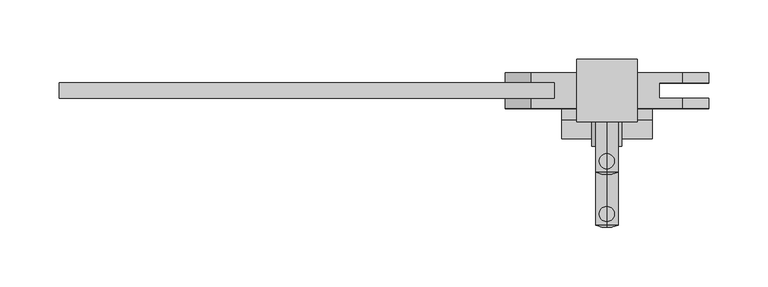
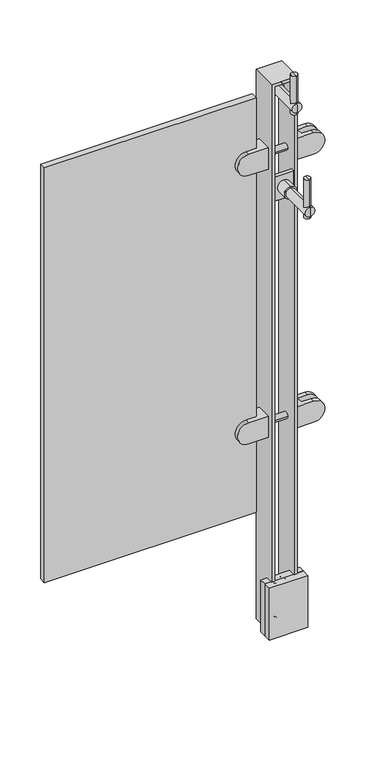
"""IFC4 building model written with IfcOpenShell, lengths in millimetres: proxy geometry, LIVERS_ICN - Glass Panel : LIVERS_ICN - Glass Panel."""

from ifc_helpers import new_model, si_unit, point, frame, origin, place, context, project, spatial, polyline, circle_curve, ellipse_curve, trimmed, outline, extrude, faceted_brep, source, transform, mapped, element, save
from ifc_brep_helpers import plane_surface, cylinder_surface, revolved_surface, advanced_brep


def building_element_proxy_dcb49e08(model_context):
    return source(origin(), model_context, "Body", "SolidModel", [
        advanced_brep(
        [(795.5594285, 60.3249609, 991.2180522), (795.5594285, 60.3249609, 978.5180522), (795.5594285, 60.3249609, 965.8180522), (795.5594285, 38.0999609, 991.2180522), (795.5594285, 38.0999609, 965.8180522), (795.5594285, 38.0999609, 978.5180522)],
        [
            (0, 1),
            (1, 2),
            (2, 0, circle_curve(frame((795.5594285, 60.3249609, 978.5180522), z_axis=(0.0, 1.0, 0.0), x_axis=(0.0, 0.0, -1.0)), 12.7)),
            (0, 2, circle_curve(frame((795.5594285, 60.3249609, 978.5180522), z_axis=(0.0, 1.0, 0.0), x_axis=(0.0, 0.0, -1.0)), 12.7)),
            (3, 0),
            (2, 4),
            (4, 3, circle_curve(frame((795.5594285, 38.0999609, 978.5180522), z_axis=(0.0, 1.0, 0.0), x_axis=(0.0, 0.0, -1.0)), 12.7)),
            (3, 4, circle_curve(frame((795.5594285, 38.0999609, 978.5180522), z_axis=(0.0, 1.0, 0.0), x_axis=(0.0, 0.0, -1.0)), 12.7)),
            (5, 3),
            (4, 5),
        ],
        [
            plane_surface(frame((795.5594285, 60.3249609, 978.5180522), z_axis=(0.0, 1.0, 0.0), x_axis=(0.0, 0.0, -1.0))),
            cylinder_surface(frame((795.5594285, 69.3828283, 978.5180522), z_axis=(0.0, -1.0, 0.0), x_axis=(0.0, 0.0, -1.0)), 12.7),
            plane_surface(frame((795.5594285, 38.0999609, 978.5180522), z_axis=(0.0, -1.0, 0.0), x_axis=(0.0, 0.0, -1.0))),
        ],
        [
            (0, [[1, 2, 3]]),
            (0, [[-2, -1, 4]]),
            (1, [[5, -3, 6, 7]]),
            (1, [[-6, -4, -5, 8]]),
            (2, [[9, -7, 10]]),
            (2, [[-10, -8, -9]]),
        ],
    ),
        advanced_brep(
        [(795.5594285, -25.4004131, 1043.1838845), (795.5594285, -19.0504161, 1043.1838845), (795.5594285, -12.7004191, 1043.1838845), (795.5594285, -25.4004131, 962.7878163), (795.5594285, -12.7004191, 962.7878163), (795.5594285, -19.0504161, 962.7878163)],
        [
            (0, 1),
            (1, 2),
            (2, 0, circle_curve(frame((795.5594285, -19.0504161, 1043.1838845), z_axis=(0.0, 0.0, 1.0), x_axis=(0.0, 1.0, 0.0)), 6.349997)),
            (0, 2, circle_curve(frame((795.5594285, -19.0504161, 1043.1838845), z_axis=(0.0, 0.0, 1.0), x_axis=(0.0, 1.0, 0.0)), 6.349997)),
            (3, 0),
            (2, 4),
            (4, 3, circle_curve(frame((795.5594285, -19.0504161, 962.7878163), z_axis=(0.0, 0.0, 1.0), x_axis=(0.0, 1.0, 0.0)), 6.349997)),
            (3, 4, circle_curve(frame((795.5594285, -19.0504161, 962.7878163), z_axis=(0.0, 0.0, 1.0), x_axis=(0.0, 1.0, 0.0)), 6.349997)),
            (5, 3),
            (4, 5),
        ],
        [
            plane_surface(frame((795.5594285, -19.0504161, 1043.1838845), z_axis=(0.0, 0.0, 1.0), x_axis=(0.0, 1.0, 0.0))),
            cylinder_surface(frame((795.5594285, -19.0504161, 1057.0348914), z_axis=(0.0, 0.0, -1.0), x_axis=(0.0, 1.0, 0.0)), 6.349997),
            plane_surface(frame((795.5594285, -19.0504161, 962.7878163), z_axis=(0.0, 0.0, -1.0), x_axis=(0.0, 1.0, 0.0))),
        ],
        [
            (0, [[1, 2, 3]]),
            (0, [[-2, -1, 4]]),
            (1, [[5, -3, 6, 7]]),
            (1, [[-6, -4, -5, 8]]),
            (2, [[9, -7, 10]]),
            (2, [[-10, -8, -9]]),
        ],
    ),
        advanced_brep(
        [(795.5594285, -30.1375464, 978.5180522), (795.5594285, -28.5500464, 988.0430522), (795.5594285, -28.5500464, 968.9930522), (795.5594285, 38.0999609, 988.0430522), (795.5594285, 38.0999609, 978.5180522), (795.5594285, 38.0999609, 968.9930522)],
        [
            (0, 1, circle_curve(frame((795.5594285, -0.7687964, 978.5180522), z_axis=(-1.0, 0.0, 0.0), x_axis=(0.0, 1.0, 0.0)), 29.36875)),
            (1, 2, circle_curve(frame((795.5594285, -28.5500464, 978.5180522), z_axis=(0.0, -1.0, 0.0), x_axis=(0.0, 0.0, -1.0)), 9.525)),
            (2, 0, circle_curve(frame((795.5594285, -0.7687964, 978.5180522), z_axis=(-1.0, 0.0, 0.0), x_axis=(0.0, 1.0, 0.0)), 29.36875)),
            (2, 1, circle_curve(frame((795.5594285, -28.5500464, 978.5180522), z_axis=(0.0, -1.0, 0.0), x_axis=(0.0, 0.0, -1.0)), 9.525)),
            (3, 4),
            (4, 5),
            (5, 3, circle_curve(frame((795.5594285, 38.0999609, 978.5180522), z_axis=(0.0, 1.0, 0.0), x_axis=(0.0, 0.0, -1.0)), 9.525)),
            (3, 5, circle_curve(frame((795.5594285, 38.0999609, 978.5180522), z_axis=(0.0, 1.0, 0.0), x_axis=(0.0, 0.0, -1.0)), 9.525)),
            (1, 3),
            (5, 2),
        ],
        [
            revolved_surface(trimmed(ellipse_curve(frame((795.5594285, -0.7687964, 978.5180522), z_axis=(-1.0, 0.0, 0.0), x_axis=(0.0, 1.0, 0.0)), 29.36875, 29.36875), [point((795.5594285, -28.5500464, 968.9930522))], [point((795.5594285, -30.1375464, 978.5180522))], True, "CARTESIAN"), (795.5594285, 30.3031204, 978.5180522), (0.0, -1.0, 0.0)),
            plane_surface(frame((795.5594285, 38.0999609, 978.5180522), z_axis=(0.0, 1.0, 0.0), x_axis=(0.0, 0.0, -1.0))),
            cylinder_surface(frame((795.5594285, 30.3031204, 978.5180522), z_axis=(0.0, -1.0, 0.0), x_axis=(0.0, 0.0, -1.0)), 9.525),
        ],
        [
            (0, [[1, 2, 3]]),
            (0, [[-3, 4, -1]]),
            (1, [[5, 6, 7]]),
            (1, [[-6, -5, 8]]),
            (2, [[9, -7, 10, -2]]),
            (2, [[-10, -8, -9, -4]]),
        ],
    ),
        extrude(outline(polyline([(814.6094285, 66.6749609), (814.6094285, 60.3249609), (776.5094285, 60.3249609), (776.5094285, 66.6749609), (814.6094285, 66.6749609)])), frame((0.0, 0.0, 953.1180522), z_axis=(0.0, 0.0, 1.0), x_axis=(1.0, 0.0, 0.0)), (0.0, 0.0, 1.0), 50.8),
        advanced_brep(
        [(795.5594285, 15.875, 802.0090959), (795.5594285, 15.875, 789.3090959), (795.5594285, 15.875, 776.6090959), (795.5594285, -6.35, 802.0090959), (795.5594285, -6.35, 776.6090959), (795.5594285, -6.35, 789.3090959)],
        [
            (0, 1),
            (1, 2),
            (2, 0, circle_curve(frame((795.5594285, 15.875, 789.3090959), z_axis=(0.0, 1.0, 0.0), x_axis=(0.0, 0.0, -1.0)), 12.7)),
            (0, 2, circle_curve(frame((795.5594285, 15.875, 789.3090959), z_axis=(0.0, 1.0, 0.0), x_axis=(0.0, 0.0, -1.0)), 12.7)),
            (3, 0),
            (2, 4),
            (4, 3, circle_curve(frame((795.5594285, -6.35, 789.3090959), z_axis=(0.0, 1.0, 0.0), x_axis=(0.0, 0.0, -1.0)), 12.7)),
            (3, 4, circle_curve(frame((795.5594285, -6.35, 789.3090959), z_axis=(0.0, 1.0, 0.0), x_axis=(0.0, 0.0, -1.0)), 12.7)),
            (5, 3),
            (4, 5),
        ],
        [
            plane_surface(frame((795.5594285, 15.875, 789.3090959), z_axis=(0.0, 1.0, 0.0), x_axis=(0.0, 0.0, -1.0))),
            cylinder_surface(frame((795.5594285, 24.9328674, 789.3090959), z_axis=(0.0, -1.0, 0.0), x_axis=(0.0, 0.0, -1.0)), 12.7),
            plane_surface(frame((795.5594285, -6.35, 789.3090959), z_axis=(0.0, -1.0, 0.0), x_axis=(0.0, 0.0, -1.0))),
        ],
        [
            (0, [[1, 2, 3]]),
            (0, [[-2, -1, 4]]),
            (1, [[5, -3, 6, 7]]),
            (1, [[-6, -4, -5, 8]]),
            (2, [[9, -7, 10]]),
            (2, [[-10, -8, -9]]),
        ],
    ),
        advanced_brep(
        [(795.5594285, -69.850374, 853.9749282), (795.5594285, -63.500377, 853.9749282), (795.5594285, -57.15038, 853.9749282), (795.5594285, -69.850374, 773.57886), (795.5594285, -57.15038, 773.57886), (795.5594285, -63.500377, 773.57886)],
        [
            (0, 1),
            (1, 2),
            (2, 0, circle_curve(frame((795.5594285, -63.500377, 853.9749282), z_axis=(0.0, 0.0, 1.0), x_axis=(0.0, 1.0, 0.0)), 6.349997)),
            (0, 2, circle_curve(frame((795.5594285, -63.500377, 853.9749282), z_axis=(0.0, 0.0, 1.0), x_axis=(0.0, 1.0, 0.0)), 6.349997)),
            (3, 0),
            (2, 4),
            (4, 3, circle_curve(frame((795.5594285, -63.500377, 773.57886), z_axis=(0.0, 0.0, 1.0), x_axis=(0.0, 1.0, 0.0)), 6.349997)),
            (3, 4, circle_curve(frame((795.5594285, -63.500377, 773.57886), z_axis=(0.0, 0.0, 1.0), x_axis=(0.0, 1.0, 0.0)), 6.349997)),
            (5, 3),
            (4, 5),
        ],
        [
            plane_surface(frame((795.5594285, -63.500377, 853.9749282), z_axis=(0.0, 0.0, 1.0), x_axis=(0.0, 1.0, 0.0))),
            cylinder_surface(frame((795.5594285, -63.500377, 867.8259351), z_axis=(0.0, 0.0, -1.0), x_axis=(0.0, 1.0, 0.0)), 6.349997),
            plane_surface(frame((795.5594285, -63.500377, 773.57886), z_axis=(0.0, 0.0, -1.0), x_axis=(0.0, 1.0, 0.0))),
        ],
        [
            (0, [[1, 2, 3]]),
            (0, [[-2, -1, 4]]),
            (1, [[5, -3, 6, 7]]),
            (1, [[-6, -4, -5, 8]]),
            (2, [[9, -7, 10]]),
            (2, [[-10, -8, -9]]),
        ],
    ),
        advanced_brep(
        [(795.5594285, -74.5875073, 789.3090959), (795.5594285, -73.0000073, 798.8340959), (795.5594285, -73.0000073, 779.7840959), (795.5594285, -6.35, 798.8340959), (795.5594285, -6.35, 789.3090959), (795.5594285, -6.35, 779.7840959)],
        [
            (0, 1, circle_curve(frame((795.5594285, -45.2187573, 789.3090959), z_axis=(-1.0, 0.0, 0.0), x_axis=(0.0, 1.0, 0.0)), 29.36875)),
            (1, 2, circle_curve(frame((795.5594285, -73.0000073, 789.3090959), z_axis=(0.0, -1.0, 0.0), x_axis=(0.0, 0.0, -1.0)), 9.525)),
            (2, 0, circle_curve(frame((795.5594285, -45.2187573, 789.3090959), z_axis=(-1.0, 0.0, 0.0), x_axis=(0.0, 1.0, 0.0)), 29.36875)),
            (2, 1, circle_curve(frame((795.5594285, -73.0000073, 789.3090959), z_axis=(0.0, -1.0, 0.0), x_axis=(0.0, 0.0, -1.0)), 9.525)),
            (3, 4),
            (4, 5),
            (5, 3, circle_curve(frame((795.5594285, -6.35, 789.3090959), z_axis=(0.0, 1.0, 0.0), x_axis=(0.0, 0.0, -1.0)), 9.525)),
            (3, 5, circle_curve(frame((795.5594285, -6.35, 789.3090959), z_axis=(0.0, 1.0, 0.0), x_axis=(0.0, 0.0, -1.0)), 9.525)),
            (1, 3),
            (5, 2),
        ],
        [
            revolved_surface(trimmed(ellipse_curve(frame((795.5594285, -45.2187573, 789.3090959), z_axis=(-1.0, 0.0, 0.0), x_axis=(0.0, 1.0, 0.0)), 29.36875, 29.36875), [point((795.5594285, -73.0000073, 779.7840959))], [point((795.5594285, -74.5875073, 789.3090959))], True, "CARTESIAN"), (795.5594285, -14.1468405, 789.3090959), (0.0, -1.0, 0.0)),
            plane_surface(frame((795.5594285, -6.35, 789.3090959), z_axis=(0.0, 1.0, 0.0), x_axis=(0.0, 0.0, -1.0))),
            cylinder_surface(frame((795.5594285, -14.1468405, 789.3090959), z_axis=(0.0, -1.0, 0.0), x_axis=(0.0, 0.0, -1.0)), 9.525),
        ],
        [
            (0, [[1, 2, 3]]),
            (0, [[-3, 4, -1]]),
            (1, [[5, 6, 7]]),
            (1, [[-6, -5, 8]]),
            (2, [[9, -7, 10, -2]]),
            (2, [[-10, -8, -9, -4]]),
        ],
    ),
        extrude(outline(polyline([(814.6094285, 22.225), (814.6094285, 15.875), (776.5094285, 15.875), (776.5094285, 22.225), (814.6094285, 22.225)])), frame((0.0, 0.0, 763.9090959), z_axis=(0.0, 0.0, 1.0), x_axis=(1.0, 0.0, 0.0)), (0.0, 0.0, 1.0), 50.8),
        advanced_brep(
        [(770.1594285, 55.5624457, 313.5369168), (770.1594285, 25.3999457, 313.5369168), (770.1594285, 25.3999457, 269.0869168), (770.1594285, 55.5624457, 269.0869168), (731.9583345, 55.5624457, 269.0869168), (731.9583345, 55.5624457, 313.5369168), (731.9583345, 25.3999457, 269.0869168), (731.9583345, 34.1311957, 269.0869168), (751.2875092, 34.1311957, 269.0869168), (751.2875092, 46.8311957, 269.0869168), (731.9583345, 46.8311957, 269.0869168), (731.9583345, 25.3999457, 313.5369168), (731.9583345, 46.8311957, 313.5369168), (751.2875092, 46.8311957, 313.5369168), (751.2875092, 34.1311957, 313.5369168), (731.9583345, 34.1311957, 313.5369168)],
        [
            (0, 1),
            (1, 2),
            (2, 3),
            (3, 0),
            (3, 4),
            (4, 5, circle_curve(frame((731.9583345, 55.5624457, 291.3119168), z_axis=(0.0, 1.0, 0.0), x_axis=(0.0, 0.0, -1.0)), 22.225)),
            (5, 0),
            (2, 6),
            (6, 7),
            (7, 8),
            (8, 9),
            (9, 10),
            (10, 4),
            (1, 11),
            (11, 6, circle_curve(frame((731.9583345, 25.3999457, 291.3119168), z_axis=(0.0, -1.0, 0.0), x_axis=(0.0, 0.0, -1.0)), 22.225)),
            (5, 12),
            (12, 13),
            (13, 14),
            (14, 15),
            (15, 11),
            (13, 9),
            (8, 14),
            (12, 10, circle_curve(frame((731.9583345, 46.8311957, 291.3119168), z_axis=(0.0, -1.0, 0.0), x_axis=(0.0, 0.0, -1.0)), 22.225)),
            (7, 15, circle_curve(frame((731.9583345, 34.1311957, 291.3119168), z_axis=(0.0, 1.0, 0.0), x_axis=(0.0, 0.0, -1.0)), 22.225)),
        ],
        [
            plane_surface(frame((770.1594285, 55.5624457, 269.0869168), z_axis=(1.0, 0.0, 0.0), x_axis=(0.0, 0.0, 1.0))),
            plane_surface(frame((709.6563477, 55.5624457, 313.5369168), z_axis=(0.0, 1.0, 0.0), x_axis=(1.0, 0.0, 0.0))),
            plane_surface(frame((709.6563477, 55.5624457, 269.0869168), z_axis=(0.0, 0.0, -1.0), x_axis=(1.0, 0.0, 0.0))),
            plane_surface(frame((709.6563477, 25.3999457, 269.0869168), z_axis=(0.0, -1.0, 0.0), x_axis=(1.0, 0.0, 0.0))),
            plane_surface(frame((709.6563477, 25.3999457, 313.5369168), z_axis=(0.0, 0.0, 1.0), x_axis=(1.0, 0.0, 0.0))),
            plane_surface(frame((751.2875092, 46.8311957, 269.0869168), z_axis=(-1.0, 0.0, 0.0), x_axis=(0.0, 0.0, 1.0))),
            plane_surface(frame((709.6563477, 46.8311957, 313.5369168), z_axis=(0.0, -1.0, 0.0), x_axis=(1.0, 0.0, 0.0))),
            plane_surface(frame((709.6563477, 34.1311957, 269.0869168), z_axis=(0.0, 1.0, 0.0), x_axis=(1.0, 0.0, 0.0))),
            cylinder_surface(frame((731.9583345, 55.5624457, 291.3119168), z_axis=(0.0, 1.0, 0.0), x_axis=(0.0, 0.0, -1.0)), 22.225),
        ],
        [
            (0, [[1, 2, 3, 4]]),
            (1, [[-4, 5, 6, 7]]),
            (2, [[-3, 8, 9, 10, 11, 12, 13, -5]]),
            (3, [[-2, 14, 15, -8]]),
            (4, [[-1, -7, 16, 17, 18, 19, 20, -14]]),
            (5, [[21, -11, 22, -18]]),
            (6, [[-21, -17, 23, -12]]),
            (7, [[-22, -10, 24, -19]]),
            (8, [[-6, -13, -23, -16]]),
            (8, [[-9, -15, -20, -24]]),
        ],
    ),
        advanced_brep(
        [(820.9594285, 55.5624457, 313.5369168), (820.9594285, 55.5624457, 269.0869168), (820.9594285, 25.3999457, 269.0869168), (820.9594285, 25.3999457, 313.5369168), (859.1605225, 55.5624457, 313.5369168), (859.1605225, 55.5624457, 269.0869168), (859.1605225, 46.8311957, 269.0869168), (839.8313477, 46.8311957, 269.0869168), (839.8313477, 34.1311957, 269.0869168), (859.1605225, 34.1311957, 269.0869168), (859.1605225, 25.3999457, 269.0869168), (859.1605225, 25.3999457, 313.5369168), (859.1605225, 34.1311957, 313.5369168), (839.8313477, 34.1311957, 313.5369168), (839.8313477, 46.8311957, 313.5369168), (859.1605225, 46.8311957, 313.5369168)],
        [
            (0, 1),
            (1, 2),
            (2, 3),
            (3, 0),
            (0, 4),
            (4, 5, circle_curve(frame((859.1605225, 55.5624457, 291.3119168), z_axis=(0.0, 1.0, 0.0), x_axis=(0.0, 0.0, -1.0)), 22.225)),
            (5, 1),
            (5, 6),
            (6, 7),
            (7, 8),
            (8, 9),
            (9, 10),
            (10, 2),
            (10, 11, circle_curve(frame((859.1605225, 25.3999457, 291.3119168), z_axis=(0.0, -1.0, 0.0), x_axis=(0.0, 0.0, -1.0)), 22.225)),
            (11, 3),
            (11, 12),
            (12, 13),
            (13, 14),
            (14, 15),
            (15, 4),
            (13, 8),
            (7, 14),
            (6, 15, circle_curve(frame((859.1605225, 46.8311957, 291.3119168), z_axis=(0.0, -1.0, 0.0), x_axis=(0.0, 0.0, -1.0)), 22.225)),
            (12, 9, circle_curve(frame((859.1605225, 34.1311957, 291.3119168), z_axis=(0.0, 1.0, 0.0), x_axis=(0.0, 0.0, -1.0)), 22.225)),
        ],
        [
            plane_surface(frame((820.9594285, 55.5624457, 269.0869168), z_axis=(-1.0, 0.0, 0.0), x_axis=(0.0, 0.0, 1.0))),
            plane_surface(frame((881.4625092, 55.5624457, 313.5369168), z_axis=(0.0, 1.0, 0.0), x_axis=(-1.0, 0.0, 0.0))),
            plane_surface(frame((881.4625092, 55.5624457, 269.0869168), z_axis=(0.0, 0.0, -1.0), x_axis=(-1.0, 0.0, 0.0))),
            plane_surface(frame((881.4625092, 25.3999457, 269.0869168), z_axis=(0.0, -1.0, 0.0), x_axis=(-1.0, 0.0, 0.0))),
            plane_surface(frame((881.4625092, 25.3999457, 313.5369168), z_axis=(0.0, 0.0, 1.0), x_axis=(-1.0, 0.0, 0.0))),
            plane_surface(frame((839.8313477, 46.8311957, 269.0869168), z_axis=(1.0, 0.0, 0.0), x_axis=(0.0, 0.0, 1.0))),
            plane_surface(frame((881.4625092, 46.8311957, 313.5369168), z_axis=(0.0, -1.0, 0.0), x_axis=(-1.0, 0.0, 0.0))),
            plane_surface(frame((881.4625092, 34.1311957, 269.0869168), z_axis=(0.0, 1.0, 0.0), x_axis=(-1.0, 0.0, 0.0))),
            cylinder_surface(frame((859.1605225, 55.5624457, 291.3119168), z_axis=(0.0, 1.0, 0.0), x_axis=(0.0, 0.0, -1.0)), 22.225),
        ],
        [
            (0, [[1, 2, 3, 4]]),
            (1, [[5, 6, 7, -1]]),
            (2, [[-7, 8, 9, 10, 11, 12, 13, -2]]),
            (3, [[-13, 14, 15, -3]]),
            (4, [[-15, 16, 17, 18, 19, 20, -5, -4]]),
            (5, [[-18, 21, -10, 22]]),
            (6, [[-9, 23, -19, -22]]),
            (7, [[-17, 24, -11, -21]]),
            (8, [[-20, -23, -8, -6]]),
            (8, [[-24, -16, -14, -12]]),
        ],
    ),
        advanced_brep(
        [(770.1594285, 55.5624457, 872.3369168), (770.1594285, 25.3999457, 872.3369168), (770.1594285, 25.3999457, 827.8869168), (770.1594285, 55.5624457, 827.8869168), (731.9583345, 55.5624457, 827.8869168), (731.9583345, 55.5624457, 872.3369168), (731.9583345, 25.3999457, 827.8869168), (731.9583345, 34.1311957, 827.8869168), (751.2875092, 34.1311957, 827.8869168), (751.2875092, 46.8311957, 827.8869168), (731.9583345, 46.8311957, 827.8869168), (731.9583345, 25.3999457, 872.3369168), (731.9583345, 46.8311957, 872.3369168), (751.2875092, 46.8311957, 872.3369168), (751.2875092, 34.1311957, 872.3369168), (731.9583345, 34.1311957, 872.3369168)],
        [
            (0, 1),
            (1, 2),
            (2, 3),
            (3, 0),
            (3, 4),
            (4, 5, circle_curve(frame((731.9583345, 55.5624457, 850.1119168), z_axis=(0.0, 1.0, 0.0), x_axis=(0.0, 0.0, -1.0)), 22.225)),
            (5, 0),
            (2, 6),
            (6, 7),
            (7, 8),
            (8, 9),
            (9, 10),
            (10, 4),
            (1, 11),
            (11, 6, circle_curve(frame((731.9583345, 25.3999457, 850.1119168), z_axis=(0.0, -1.0, 0.0), x_axis=(0.0, 0.0, -1.0)), 22.225)),
            (5, 12),
            (12, 13),
            (13, 14),
            (14, 15),
            (15, 11),
            (13, 9),
            (8, 14),
            (12, 10, circle_curve(frame((731.9583345, 46.8311957, 850.1119168), z_axis=(0.0, -1.0, 0.0), x_axis=(0.0, 0.0, -1.0)), 22.225)),
            (7, 15, circle_curve(frame((731.9583345, 34.1311957, 850.1119168), z_axis=(0.0, 1.0, 0.0), x_axis=(0.0, 0.0, -1.0)), 22.225)),
        ],
        [
            plane_surface(frame((770.1594285, 55.5624457, 827.8869168), z_axis=(1.0, 0.0, 0.0), x_axis=(0.0, 0.0, 1.0))),
            plane_surface(frame((709.6563477, 55.5624457, 872.3369168), z_axis=(0.0, 1.0, 0.0), x_axis=(1.0, 0.0, 0.0))),
            plane_surface(frame((709.6563477, 55.5624457, 827.8869168), z_axis=(0.0, 0.0, -1.0), x_axis=(1.0, 0.0, 0.0))),
            plane_surface(frame((709.6563477, 25.3999457, 827.8869168), z_axis=(0.0, -1.0, 0.0), x_axis=(1.0, 0.0, 0.0))),
            plane_surface(frame((709.6563477, 25.3999457, 872.3369168), z_axis=(0.0, 0.0, 1.0), x_axis=(1.0, 0.0, 0.0))),
            plane_surface(frame((751.2875092, 46.8311957, 827.8869168), z_axis=(-1.0, 0.0, 0.0), x_axis=(0.0, 0.0, 1.0))),
            plane_surface(frame((709.6563477, 46.8311957, 872.3369168), z_axis=(0.0, -1.0, 0.0), x_axis=(1.0, 0.0, 0.0))),
            plane_surface(frame((709.6563477, 34.1311957, 827.8869168), z_axis=(0.0, 1.0, 0.0), x_axis=(1.0, 0.0, 0.0))),
            cylinder_surface(frame((731.9583345, 55.5624457, 850.1119168), z_axis=(0.0, 1.0, 0.0), x_axis=(0.0, 0.0, -1.0)), 22.225),
        ],
        [
            (0, [[1, 2, 3, 4]]),
            (1, [[-4, 5, 6, 7]]),
            (2, [[-3, 8, 9, 10, 11, 12, 13, -5]]),
            (3, [[-2, 14, 15, -8]]),
            (4, [[-1, -7, 16, 17, 18, 19, 20, -14]]),
            (5, [[21, -11, 22, -18]]),
            (6, [[-21, -17, 23, -12]]),
            (7, [[-22, -10, 24, -19]]),
            (8, [[-6, -13, -23, -16]]),
            (8, [[-9, -15, -20, -24]]),
        ],
    ),
        advanced_brep(
        [(820.9594285, 55.5624457, 872.3369168), (820.9594285, 55.5624457, 827.8869168), (820.9594285, 25.3999457, 827.8869168), (820.9594285, 25.3999457, 872.3369168), (859.1605225, 55.5624457, 872.3369168), (859.1605225, 55.5624457, 827.8869168), (859.1605225, 46.8311957, 827.8869168), (839.8313477, 46.8311957, 827.8869168), (839.8313477, 34.1311957, 827.8869168), (859.1605225, 34.1311957, 827.8869168), (859.1605225, 25.3999457, 827.8869168), (859.1605225, 25.3999457, 872.3369168), (859.1605225, 34.1311957, 872.3369168), (839.8313477, 34.1311957, 872.3369168), (839.8313477, 46.8311957, 872.3369168), (859.1605225, 46.8311957, 872.3369168)],
        [
            (0, 1),
            (1, 2),
            (2, 3),
            (3, 0),
            (0, 4),
            (4, 5, circle_curve(frame((859.1605225, 55.5624457, 850.1119168), z_axis=(0.0, 1.0, 0.0), x_axis=(0.0, 0.0, -1.0)), 22.225)),
            (5, 1),
            (5, 6),
            (6, 7),
            (7, 8),
            (8, 9),
            (9, 10),
            (10, 2),
            (10, 11, circle_curve(frame((859.1605225, 25.3999457, 850.1119168), z_axis=(0.0, -1.0, 0.0), x_axis=(0.0, 0.0, -1.0)), 22.225)),
            (11, 3),
            (11, 12),
            (12, 13),
            (13, 14),
            (14, 15),
            (15, 4),
            (13, 8),
            (7, 14),
            (6, 15, circle_curve(frame((859.1605225, 46.8311957, 850.1119168), z_axis=(0.0, -1.0, 0.0), x_axis=(0.0, 0.0, -1.0)), 22.225)),
            (12, 9, circle_curve(frame((859.1605225, 34.1311957, 850.1119168), z_axis=(0.0, 1.0, 0.0), x_axis=(0.0, 0.0, -1.0)), 22.225)),
        ],
        [
            plane_surface(frame((820.9594285, 55.5624457, 827.8869168), z_axis=(-1.0, 0.0, 0.0), x_axis=(0.0, 0.0, 1.0))),
            plane_surface(frame((881.4625092, 55.5624457, 872.3369168), z_axis=(0.0, 1.0, 0.0), x_axis=(-1.0, 0.0, 0.0))),
            plane_surface(frame((881.4625092, 55.5624457, 827.8869168), z_axis=(0.0, 0.0, -1.0), x_axis=(-1.0, 0.0, 0.0))),
            plane_surface(frame((881.4625092, 25.3999457, 827.8869168), z_axis=(0.0, -1.0, 0.0), x_axis=(-1.0, 0.0, 0.0))),
            plane_surface(frame((881.4625092, 25.3999457, 872.3369168), z_axis=(0.0, 0.0, 1.0), x_axis=(-1.0, 0.0, 0.0))),
            plane_surface(frame((839.8313477, 46.8311957, 827.8869168), z_axis=(1.0, 0.0, 0.0), x_axis=(0.0, 0.0, 1.0))),
            plane_surface(frame((881.4625092, 46.8311957, 872.3369168), z_axis=(0.0, -1.0, 0.0), x_axis=(-1.0, 0.0, 0.0))),
            plane_surface(frame((881.4625092, 34.1311957, 827.8869168), z_axis=(0.0, 1.0, 0.0), x_axis=(-1.0, 0.0, 0.0))),
            cylinder_surface(frame((859.1605225, 55.5624457, 850.1119168), z_axis=(0.0, 1.0, 0.0), x_axis=(0.0, 0.0, -1.0)), 22.225),
        ],
        [
            (0, [[1, 2, 3, 4]]),
            (1, [[5, 6, 7, -1]]),
            (2, [[-7, 8, 9, 10, 11, 12, 13, -2]]),
            (3, [[-13, 14, 15, -3]]),
            (4, [[-15, 16, 17, 18, 19, 20, -5, -4]]),
            (5, [[-18, 21, -10, 22]]),
            (6, [[-9, 23, -19, -22]]),
            (7, [[-17, 24, -11, -21]]),
            (8, [[-20, -23, -8, -6]]),
            (8, [[-24, -16, -14, -12]]),
        ],
    ),
        advanced_brep(
        [(795.5594285, 28.575, -125.3541166), (795.5594285, 29.7562407, -125.3541166), (795.5594285, 29.7562407, -103.1291055), (795.5594285, 28.575, -103.1291055), (795.5594285, 28.575, -114.2416111), (795.5594285, 32.325, -119.8541166), (795.5594285, 30.8816229, -114.2416111), (795.5594285, 32.325, -108.6291055), (795.5594285, 34.8740117, -119.8541166), (795.5594285, 34.8740117, -108.6291055), (795.5594285, 33.8500285, -122.802123), (795.5594285, 33.8500285, -105.6810991), (795.5594285, 31.8562692, -124.5603989), (795.5594285, 31.8562692, -103.9228232)],
        [
            (0, 1),
            (1, 2, circle_curve(frame((795.5594285, 29.7562407, -114.2416111), z_axis=(0.0, -1.0, 0.0), x_axis=(0.0, 0.0, 1.0)), 11.1125056)),
            (2, 3),
            (3, 0, circle_curve(frame((795.5594285, 28.575, -114.2416111), z_axis=(0.0, 1.0, 0.0), x_axis=(0.0, 0.0, 1.0)), 11.1125056)),
            (2, 1, circle_curve(frame((795.5594285, 29.7562407, -114.2416111), z_axis=(0.0, -1.0, 0.0), x_axis=(0.0, 0.0, 1.0)), 11.1125056)),
            (0, 3, circle_curve(frame((795.5594285, 28.575, -114.2416111), z_axis=(0.0, 1.0, 0.0), x_axis=(0.0, 0.0, 1.0)), 11.1125056)),
            (4, 0),
            (3, 4),
            (5, 6),
            (6, 7),
            (7, 5, circle_curve(frame((795.5594285, 32.325, -114.2416111), z_axis=(0.0, 1.0, 0.0), x_axis=(0.0, 0.0, 1.0)), 5.6125056)),
            (5, 7, circle_curve(frame((795.5594285, 32.325, -114.2416111), z_axis=(0.0, 1.0, 0.0), x_axis=(0.0, 0.0, 1.0)), 5.6125056)),
            (8, 5),
            (7, 9),
            (9, 8, circle_curve(frame((795.5594285, 34.8740117, -114.2416111), z_axis=(0.0, 1.0, 0.0), x_axis=(0.0, 0.0, 1.0)), 5.6125056)),
            (8, 9, circle_curve(frame((795.5594285, 34.8740117, -114.2416111), z_axis=(0.0, 1.0, 0.0), x_axis=(0.0, 0.0, 1.0)), 5.6125056)),
            (10, 8, circle_curve(frame((795.5594285, 31.75, -120.4208407), z_axis=(1.0, 0.0, 0.0), x_axis=(0.0, -1.0, 0.0)), 3.175)),
            (9, 11, circle_curve(frame((795.5594285, 31.75, -108.0623814), z_axis=(1.0, 0.0, 0.0), x_axis=(0.0, -1.0, 0.0)), 3.175)),
            (11, 10, circle_curve(frame((795.5594285, 33.8500285, -114.2416111), z_axis=(0.0, 1.0, 0.0), x_axis=(0.0, 0.0, 1.0)), 8.560512)),
            (10, 11, circle_curve(frame((795.5594285, 33.8500285, -114.2416111), z_axis=(0.0, 1.0, 0.0), x_axis=(0.0, 0.0, 1.0)), 8.560512)),
            (12, 10),
            (11, 13),
            (13, 12, circle_curve(frame((795.5594285, 31.8562692, -114.2416111), z_axis=(0.0, 1.0, 0.0), x_axis=(0.0, 0.0, 1.0)), 10.3187879)),
            (12, 13, circle_curve(frame((795.5594285, 31.8562692, -114.2416111), z_axis=(0.0, 1.0, 0.0), x_axis=(0.0, 0.0, 1.0)), 10.3187879)),
            (1, 12, circle_curve(frame((795.5594285, 29.7562407, -122.1791166), z_axis=(1.0, 0.0, 0.0), x_axis=(0.0, -1.0, 0.0)), 3.175)),
            (13, 2, circle_curve(frame((795.5594285, 29.7562407, -106.3041055), z_axis=(1.0, 0.0, 0.0), x_axis=(0.0, -1.0, 0.0)), 3.175)),
        ],
        [
            cylinder_surface(frame((795.5594285, 28.575, -114.2416111), z_axis=(0.0, -1.0, 0.0), x_axis=(0.0, 0.0, 1.0)), 11.1125056),
            plane_surface(frame((795.5594285, 28.575, -114.2416111), z_axis=(0.0, -1.0, 0.0), x_axis=(0.0, 0.0, 1.0))),
            revolved_surface(polyline([(795.5594285, 30.8816229, -114.2416111), (795.5594285, 32.325, -108.6291055)]), (795.5594285, 28.575, -114.2416111), (0.0, -1.0, 0.0)),
            revolved_surface(polyline([(795.5594285, 32.325, -108.6291055), (795.5594285, 34.8740117, -108.6291055)]), (795.5594285, 28.575, -114.2416111), (0.0, -1.0, 0.0)),
            revolved_surface(trimmed(ellipse_curve(frame((795.5594285, 31.75, -108.0623814), z_axis=(1.0, 0.0, 0.0), x_axis=(0.0, -1.0, 0.0)), 3.175, 3.175), [point((795.5594285, 34.8740117, -108.6291055))], [point((795.5594285, 33.8500285, -105.6810991))], True, "CARTESIAN"), (795.5594285, 28.575, -114.2416111), (0.0, -1.0, 0.0)),
            revolved_surface(polyline([(795.5594285, 33.8500285, -105.6810991), (795.5594285, 31.8562692, -103.9228232)]), (795.5594285, 28.575, -114.2416111), (0.0, -1.0, 0.0)),
            revolved_surface(trimmed(ellipse_curve(frame((795.5594285, 29.7562407, -106.3041055), z_axis=(1.0, 0.0, 0.0), x_axis=(0.0, -1.0, 0.0)), 3.175, 3.175), [point((795.5594285, 31.8562692, -103.9228232))], [point((795.5594285, 29.7562407, -103.1291055))], True, "CARTESIAN"), (795.5594285, 28.575, -114.2416111), (0.0, -1.0, 0.0)),
        ],
        [
            (0, [[1, 2, 3, 4]]),
            (0, [[-3, 5, -1, 6]]),
            (1, [[7, -4, 8]]),
            (1, [[-8, -6, -7]]),
            (2, [[9, 10, 11]]),
            (2, [[-10, -9, 12]]),
            (3, [[13, -11, 14, 15]]),
            (3, [[-14, -12, -13, 16]]),
            (4, [[17, -15, 18, 19]]),
            (4, [[-18, -16, -17, 20]]),
            (5, [[21, -19, 22, 23]]),
            (5, [[-22, -20, -21, 24]]),
            (6, [[25, -23, 26, -2]]),
            (6, [[-26, -24, -25, -5]]),
        ],
    ),
        advanced_brep(
        [(795.5594285, 28.575, -55.5041166), (795.5594285, 29.7562407, -55.5041166), (795.5594285, 29.7562407, -33.2791055), (795.5594285, 28.575, -33.2791055), (795.5594285, 28.575, -44.3916111), (795.5594285, 33.8500285, -52.952123), (795.5594285, 34.8740117, -50.0041166), (795.5594285, 34.8740117, -38.7791055), (795.5594285, 33.8500285, -35.8310991), (795.5594285, 31.8562692, -54.7103989), (795.5594285, 31.8562692, -34.0728232), (795.5594285, 32.325, -50.0041166), (795.5594285, 30.8816229, -44.3916111), (795.5594285, 32.325, -38.7791055)],
        [
            (0, 1),
            (1, 2, circle_curve(frame((795.5594285, 29.7562407, -44.3916111), z_axis=(0.0, -1.0, 0.0), x_axis=(0.0, 0.0, 1.0)), 11.1125056)),
            (2, 3),
            (3, 0, circle_curve(frame((795.5594285, 28.575, -44.3916111), z_axis=(0.0, 1.0, 0.0), x_axis=(0.0, 0.0, 1.0)), 11.1125056)),
            (2, 1, circle_curve(frame((795.5594285, 29.7562407, -44.3916111), z_axis=(0.0, -1.0, 0.0), x_axis=(0.0, 0.0, 1.0)), 11.1125056)),
            (0, 3, circle_curve(frame((795.5594285, 28.575, -44.3916111), z_axis=(0.0, 1.0, 0.0), x_axis=(0.0, 0.0, 1.0)), 11.1125056)),
            (4, 0),
            (3, 4),
            (5, 6, circle_curve(frame((795.5594285, 31.75, -50.5708407), z_axis=(1.0, 0.0, 0.0), x_axis=(0.0, -1.0, 0.0)), 3.175)),
            (6, 7, circle_curve(frame((795.5594285, 34.8740117, -44.3916111), z_axis=(0.0, -1.0, 0.0), x_axis=(0.0, 0.0, 1.0)), 5.6125056)),
            (7, 8, circle_curve(frame((795.5594285, 31.75, -38.2123814), z_axis=(1.0, 0.0, 0.0), x_axis=(0.0, -1.0, 0.0)), 3.175)),
            (8, 5, circle_curve(frame((795.5594285, 33.8500285, -44.3916111), z_axis=(0.0, 1.0, 0.0), x_axis=(0.0, 0.0, 1.0)), 8.560512)),
            (7, 6, circle_curve(frame((795.5594285, 34.8740117, -44.3916111), z_axis=(0.0, -1.0, 0.0), x_axis=(0.0, 0.0, 1.0)), 5.6125056)),
            (5, 8, circle_curve(frame((795.5594285, 33.8500285, -44.3916111), z_axis=(0.0, 1.0, 0.0), x_axis=(0.0, 0.0, 1.0)), 8.560512)),
            (9, 5),
            (8, 10),
            (10, 9, circle_curve(frame((795.5594285, 31.8562692, -44.3916111), z_axis=(0.0, 1.0, 0.0), x_axis=(0.0, 0.0, 1.0)), 10.3187879)),
            (9, 10, circle_curve(frame((795.5594285, 31.8562692, -44.3916111), z_axis=(0.0, 1.0, 0.0), x_axis=(0.0, 0.0, 1.0)), 10.3187879)),
            (1, 9, circle_curve(frame((795.5594285, 29.7562407, -52.3291166), z_axis=(1.0, 0.0, 0.0), x_axis=(0.0, -1.0, 0.0)), 3.175)),
            (10, 2, circle_curve(frame((795.5594285, 29.7562407, -36.4541055), z_axis=(1.0, 0.0, 0.0), x_axis=(0.0, -1.0, 0.0)), 3.175)),
            (11, 12),
            (12, 13),
            (13, 11, circle_curve(frame((795.5594285, 32.325, -44.3916111), z_axis=(0.0, 1.0, 0.0), x_axis=(0.0, 0.0, 1.0)), 5.6125056)),
            (11, 13, circle_curve(frame((795.5594285, 32.325, -44.3916111), z_axis=(0.0, 1.0, 0.0), x_axis=(0.0, 0.0, 1.0)), 5.6125056)),
            (6, 11),
            (13, 7),
        ],
        [
            cylinder_surface(frame((795.5594285, 28.575, -44.3916111), z_axis=(0.0, -1.0, 0.0), x_axis=(0.0, 0.0, 1.0)), 11.1125056),
            plane_surface(frame((795.5594285, 28.575, -44.3916111), z_axis=(0.0, -1.0, 0.0), x_axis=(0.0, 0.0, 1.0))),
            revolved_surface(trimmed(ellipse_curve(frame((795.5594285, 31.75, -38.2123814), z_axis=(1.0, 0.0, 0.0), x_axis=(0.0, -1.0, 0.0)), 3.175, 3.175), [point((795.5594285, 34.8740117, -38.7791055))], [point((795.5594285, 33.8500285, -35.8310991))], True, "CARTESIAN"), (795.5594285, 28.575, -44.3916111), (0.0, -1.0, 0.0)),
            revolved_surface(polyline([(795.5594285, 33.8500285, -35.8310991), (795.5594285, 31.8562692, -34.0728232)]), (795.5594285, 28.575, -44.3916111), (0.0, -1.0, 0.0)),
            revolved_surface(trimmed(ellipse_curve(frame((795.5594285, 29.7562407, -36.4541055), z_axis=(1.0, 0.0, 0.0), x_axis=(0.0, -1.0, 0.0)), 3.175, 3.175), [point((795.5594285, 31.8562692, -34.0728232))], [point((795.5594285, 29.7562407, -33.2791055))], True, "CARTESIAN"), (795.5594285, 28.575, -44.3916111), (0.0, -1.0, 0.0)),
            revolved_surface(polyline([(795.5594285, 30.8816229, -44.3916111), (795.5594285, 32.325, -38.7791055)]), (795.5594285, 28.575, -44.3916111), (0.0, -1.0, 0.0)),
            revolved_surface(polyline([(795.5594285, 32.325, -38.7791055), (795.5594285, 34.8740117, -38.7791055)]), (795.5594285, 28.575, -44.3916111), (0.0, -1.0, 0.0)),
        ],
        [
            (0, [[1, 2, 3, 4]]),
            (0, [[-3, 5, -1, 6]]),
            (1, [[7, -4, 8]]),
            (1, [[-8, -6, -7]]),
            (2, [[9, 10, 11, 12]]),
            (2, [[-11, 13, -9, 14]]),
            (3, [[15, -12, 16, 17]]),
            (3, [[-16, -14, -15, 18]]),
            (4, [[19, -17, 20, -2]]),
            (4, [[-20, -18, -19, -5]]),
            (5, [[21, 22, 23]]),
            (5, [[-22, -21, 24]]),
            (6, [[25, -23, 26, -10]]),
            (6, [[-26, -24, -25, -13]]),
        ],
    ),
        faceted_brep([(820.9594285, 14.2874305, 1010.2680522), (820.9594285, 14.2874305, -133.2916111), (820.9594285, 15.875, -133.2916111), (820.9594285, 15.875, -25.3416111), (820.9594285, 28.575, -25.3416111), (820.9594285, 28.575, -133.2916111), (820.9594285, 66.6749609, -133.2916111), (820.9594285, 66.6749609, 1010.2680522), (814.6094285, 66.6749609, -133.2916111), (814.6094285, 28.575, -133.2916111), (814.6094285, 28.575, -25.3416111), (814.6094285, 15.875, -25.3416111), (814.6094285, 15.875, -133.2916111), (814.6094285, 14.2874305, -133.2916111), (814.6094285, 14.2874305, 1003.9180522), (814.6094285, 66.6749609, 1003.9180522), (757.4594285, 28.575, -133.2916111), (770.1594285, 28.575, -133.2916111), (770.1594285, 66.6749609, -133.2916111), (776.5094285, 66.6749609, -133.2916111), (776.5094285, 28.575, -133.2916111), (833.6594285, 28.575, -133.2916111), (833.6594285, 15.875, -133.2916111), (776.5094285, 15.875, -133.2916111), (776.5094285, 14.2874305, -133.2916111), (770.1594285, 14.2874305, -133.2916111), (770.1594285, 15.875, -133.2916111), (757.4594285, 15.875, -133.2916111), (770.1594285, 14.2874305, 1010.2680522), (776.5094285, 14.2874305, 1003.9180522), (770.1594285, 66.6749609, 1010.2680522), (776.5094285, 66.6749609, 1003.9180522), (776.5094285, 15.875, -25.3416111), (776.5094285, 28.575, -25.3416111), (770.1594285, 28.575, -25.3416111), (770.1594285, 15.875, -25.3416111), (833.6594285, 28.575, -25.3416111), (757.4594285, 28.575, -25.3416111), (757.4594285, 15.875, -25.3416111), (833.6594285, 15.875, -25.3416111)], [[[0, 1, 2, 3, 4, 5, 6, 7]], [[8, 9, 10, 11, 12, 13, 14, 15]], [[16, 17, 18, 19, 20, 9, 8, 6, 5, 21, 22, 2, 1, 13, 12, 23, 24, 25, 26, 27]], [[1, 0, 28, 25, 24, 29, 14, 13]], [[7, 30, 28, 0]], [[8, 15, 31, 19, 18, 30, 7, 6]], [[24, 23, 32, 33, 20, 19, 31, 29]], [[14, 29, 31, 15]], [[30, 18, 17, 34, 35, 26, 25, 28]], [[20, 33, 10, 9]], [[21, 5, 4, 36]], [[37, 34, 17, 16]], [[12, 11, 32, 23]], [[27, 26, 35, 38]], [[39, 3, 2, 22]], [[36, 39, 22, 21]], [[33, 32, 11, 10]], [[36, 4, 3, 39]], [[38, 35, 34, 37]], [[16, 27, 38, 37]]]),
        extrude(outline(polyline([(833.6594285, 15.875), (833.6594285, 0.0), (757.4594285, 0.0), (757.4594285, 15.875), (833.6594285, 15.875)])), frame((0.0, 0.0, -133.2916111), z_axis=(0.0, 0.0, 1.0), x_axis=(1.0, 0.0, 0.0)), (0.0, 0.0, 1.0), 107.95),
        advanced_brep(
        [(776.5094285, 41.2749421, 291.3119224), (776.5094285, 47.5989918, 291.3119224), (776.5094285, 34.9508924, 291.3119224), (814.6234147, 47.5989918, 291.3119224), (814.6234147, 41.2749421, 291.3119224), (814.6234147, 34.9508924, 291.3119224)],
        [
            (0, 1),
            (1, 2, circle_curve(frame((776.5094285, 41.2749421, 291.3119224), z_axis=(-1.0, 0.0, 0.0), x_axis=(0.0, -1.0, 0.0)), 6.3240497)),
            (2, 0),
            (2, 1, circle_curve(frame((776.5094285, 41.2749421, 291.3119224), z_axis=(-1.0, 0.0, 0.0), x_axis=(0.0, -1.0, 0.0)), 6.3240497)),
            (3, 4),
            (4, 5),
            (5, 3, circle_curve(frame((814.6234147, 41.2749421, 291.3119224), z_axis=(1.0, 0.0, 0.0), x_axis=(0.0, -1.0, 0.0)), 6.3240497)),
            (3, 5, circle_curve(frame((814.6234147, 41.2749421, 291.3119224), z_axis=(1.0, 0.0, 0.0), x_axis=(0.0, -1.0, 0.0)), 6.3240497)),
            (1, 3),
            (5, 2),
        ],
        [
            plane_surface(frame((776.5094285, 41.2749421, 291.3119224), z_axis=(-1.0, 0.0, 0.0), x_axis=(0.0, -1.0, 0.0))),
            plane_surface(frame((814.6234147, 41.2749421, 291.3119224), z_axis=(1.0, 0.0, 0.0), x_axis=(0.0, -1.0, 0.0))),
            cylinder_surface(frame((776.5094285, 41.2749421, 291.3119224), z_axis=(-1.0, 0.0, 0.0), x_axis=(0.0, -1.0, 0.0)), 6.3240497),
        ],
        [
            (0, [[1, 2, 3]]),
            (0, [[-3, 4, -1]]),
            (1, [[5, 6, 7]]),
            (1, [[-6, -5, 8]]),
            (2, [[9, -7, 10, -2]]),
            (2, [[-10, -8, -9, -4]]),
        ],
    ),
        advanced_brep(
        [(776.5094285, 41.2749421, 850.1119224), (776.5094285, 47.5989918, 850.1119224), (776.5094285, 34.9508924, 850.1119224), (814.6234147, 47.5989918, 850.1119224), (814.6234147, 41.2749421, 850.1119224), (814.6234147, 34.9508924, 850.1119224)],
        [
            (0, 1),
            (1, 2, circle_curve(frame((776.5094285, 41.2749421, 850.1119224), z_axis=(-1.0, 0.0, 0.0), x_axis=(0.0, -1.0, 0.0)), 6.3240497)),
            (2, 0),
            (2, 1, circle_curve(frame((776.5094285, 41.2749421, 850.1119224), z_axis=(-1.0, 0.0, 0.0), x_axis=(0.0, -1.0, 0.0)), 6.3240497)),
            (3, 4),
            (4, 5),
            (5, 3, circle_curve(frame((814.6234147, 41.2749421, 850.1119224), z_axis=(1.0, 0.0, 0.0), x_axis=(0.0, -1.0, 0.0)), 6.3240497)),
            (3, 5, circle_curve(frame((814.6234147, 41.2749421, 850.1119224), z_axis=(1.0, 0.0, 0.0), x_axis=(0.0, -1.0, 0.0)), 6.3240497)),
            (1, 3),
            (5, 2),
        ],
        [
            plane_surface(frame((776.5094285, 41.2749421, 850.1119224), z_axis=(-1.0, 0.0, 0.0), x_axis=(0.0, -1.0, 0.0))),
            plane_surface(frame((814.6234147, 41.2749421, 850.1119224), z_axis=(1.0, 0.0, 0.0), x_axis=(0.0, -1.0, 0.0))),
            cylinder_surface(frame((776.5094285, 41.2749421, 850.1119224), z_axis=(-1.0, 0.0, 0.0), x_axis=(0.0, -1.0, 0.0)), 6.3240497),
        ],
        [
            (0, [[1, 2, 3]]),
            (0, [[-3, 4, -1]]),
            (1, [[5, 6, 7]]),
            (1, [[-6, -5, 8]]),
            (2, [[9, -7, 10, -2]]),
            (2, [[-10, -8, -9, -4]]),
        ],
    ),
        extrude(outline(polyline([(751.2875092, 34.1309994), (334.4330639, 34.1309994), (334.4330639, 46.8311957), (751.2875092, 46.8311957), (751.2875092, 34.1309994)])), frame((0.0, 0.0, 114.3), z_axis=(0.0, 0.0, 1.0), x_axis=(1.0, 0.0, 0.0)), (0.0, 0.0, 1.0), 863.6),
    ])


if __name__ == "__main__":
    model = new_model("IFC4")
    model_context = context("Model", 3, world=origin())
    ifc_project = project(units=[si_unit("LENGTHUNIT", "METRE", prefix="MILLI")], contexts=[model_context])
    site = spatial("IfcSite", under=ifc_project)
    building = spatial("IfcBuilding", under=site)
    placement = place(None, origin())
    building_element_proxy_shape = building_element_proxy_dcb49e08(model_context)
    element("IfcBuildingElementProxy", 1, Name="LIVERS_ICN - Glass Panel : LIVERS_ICN - Glass Panel", ObjectType="LIVERS_ICN - Glass Panel : LIVERS_ICN - Glass Panel", at=placement, inside=building, context=model_context, shape_type="MappedRepresentation", body=[
        mapped(building_element_proxy_shape, transform((0.0, 0.0, 0.0), x_axis=(1.0, 0.0, 0.0), y_axis=(0.0, 1.0, 0.0), z_axis=(0.0, 0.0, 1.0))),
    ])
    save(model, "model.ifc")
